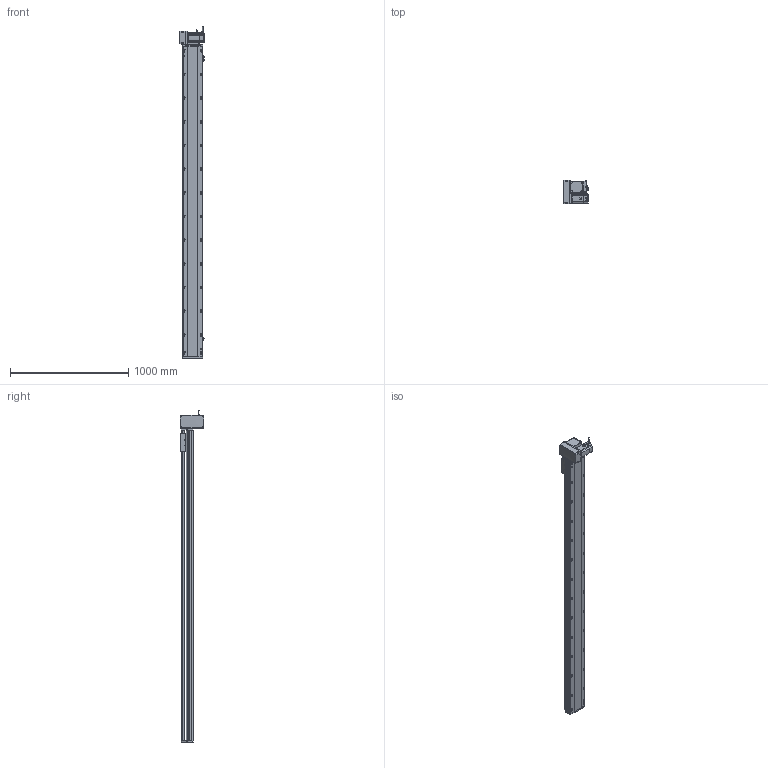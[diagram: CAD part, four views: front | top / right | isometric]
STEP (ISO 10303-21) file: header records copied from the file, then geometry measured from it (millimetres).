
FILE_DESCRIPTION (( 'STEP AP214' ), '1' );
FILE_NAME ('RTB17S-XX-2350-LM-M75-C4.STEP', '2025-12-12T00:46:06', ( '' ), ( '' ), 'SwSTEP 2.0', 'SolidWorks 2018', '' );
FILE_SCHEMA (( 'AUTOMOTIVE_DESIGN' ));
Length unit declared in the file: millimetre
Products named in the file (15): RTB17S-賑釱^RTB17S-XX-XX-LM-M75-C4; EE672^RTB17S-XX-XX-LM-M75-C4; RTB17S-L-004-賑釱^RTB17S-賑釱_RTB17S-XX-XX-LM-M75-C4; RTB22S-GY-017P^RTB17S-LM-々湍釱蚾饜-750W_RTB17S-XX-XX-LM-M75-C4; RTB17S-L-007奻裔^RTB17S-XX-XX-LM-M75-C4; RTB17S-L-014-T20-P75--々湍釱^RTB17S-LM-々湍釱蚾饜-750W_RTB17S-XX-XX-LM-M75-C4; 750W萇儂^RTB17S-XX-XX-LM-M75-C4; RTB22S-GY-005P^RTB17S-LM-々湍釱蚾饜-750W_RTB17S-XX-XX-LM-M75-C4; RTB17S-L-001-耜醱啣^RTB17S-XX-XX-LM-M75-C4; RTB17S-XX-2350-LM-M75-C4; RTH13-BL-012覜茼え俋离^RTB17S-賑釱_RTB17S-XX-XX-LM-M75-C4; RTB22S-GY-018P^RTB17S-LM-々湍釱蚾饜-750W_RTB17S-XX-XX-LM-M75-C4; RTB17S-LM-々湍釱蚾饜-750W^RTB17S-XX-XX-LM-M75-C4; RTB17-R-011菁釱^RTB17S-XX-XX-LM-M75-C4; RTB22S-GY-008-M75--萇儂啣^RTB17S-LM-々湍釱蚾饜-750W_RTB17S-XX-XX-LM-M75-C4
Assembly tree (17 placements, depth 3):
  RTB17S-XX-2350-LM-M75-C4
    RTB17-R-011菁釱^RTB17S-XX-XX-LM-M75-C4
    EE672^RTB17S-XX-XX-LM-M75-C4  x3
    RTB17S-L-001-耜醱啣^RTB17S-XX-XX-LM-M75-C4
    RTB17S-賑釱^RTB17S-XX-XX-LM-M75-C4
      RTB17S-L-004-賑釱^RTB17S-賑釱_RTB17S-XX-XX-LM-M75-C4
      RTH13-BL-012覜茼え俋离^RTB17S-賑釱_RTB17S-XX-XX-LM-M75-C4
    RTB17S-L-007奻裔^RTB17S-XX-XX-LM-M75-C4
    750W萇儂^RTB17S-XX-XX-LM-M75-C4
    RTB17S-LM-々湍釱蚾饜-750W^RTB17S-XX-XX-LM-M75-C4
      RTB17S-L-014-T20-P75--々湍釱^RTB17S-LM-々湍釱蚾饜-750W_RTB17S-XX-XX-LM-M75-C4
      RTB22S-GY-005P^RTB17S-LM-々湍釱蚾饜-750W_RTB17S-XX-XX-LM-M75-C4
      RTB22S-GY-017P^RTB17S-LM-々湍釱蚾饜-750W_RTB17S-XX-XX-LM-M75-C4  x2
      RTB22S-GY-008-M75--萇儂啣^RTB17S-LM-々湍釱蚾饜-750W_RTB17S-XX-XX-LM-M75-C4
      RTB22S-GY-018P^RTB17S-LM-々湍釱蚾饜-750W_RTB17S-XX-XX-LM-M75-C4
Bounding box: 210.4 x 200 x 2802.2 mm (x, y, z)
Volume: 20640203.5 mm3; surface area: 3729163.5 mm2
Topology: 17 solids, 17 shells, 2201 faces, 6160 edges, 3986 vertices
Faces by surface type: plane 984, cylinder 801, bspline 294, cone 110, sphere 8, torus 4
Entity records: 63478 total; most frequent: CARTESIAN_POINT 18824, ORIENTED_EDGE 9164, DIRECTION 8492, EDGE_CURVE 4582, AXIS2_PLACEMENT_3D 3006, VERTEX_POINT 2990, LINE 2480, VECTOR 2480
